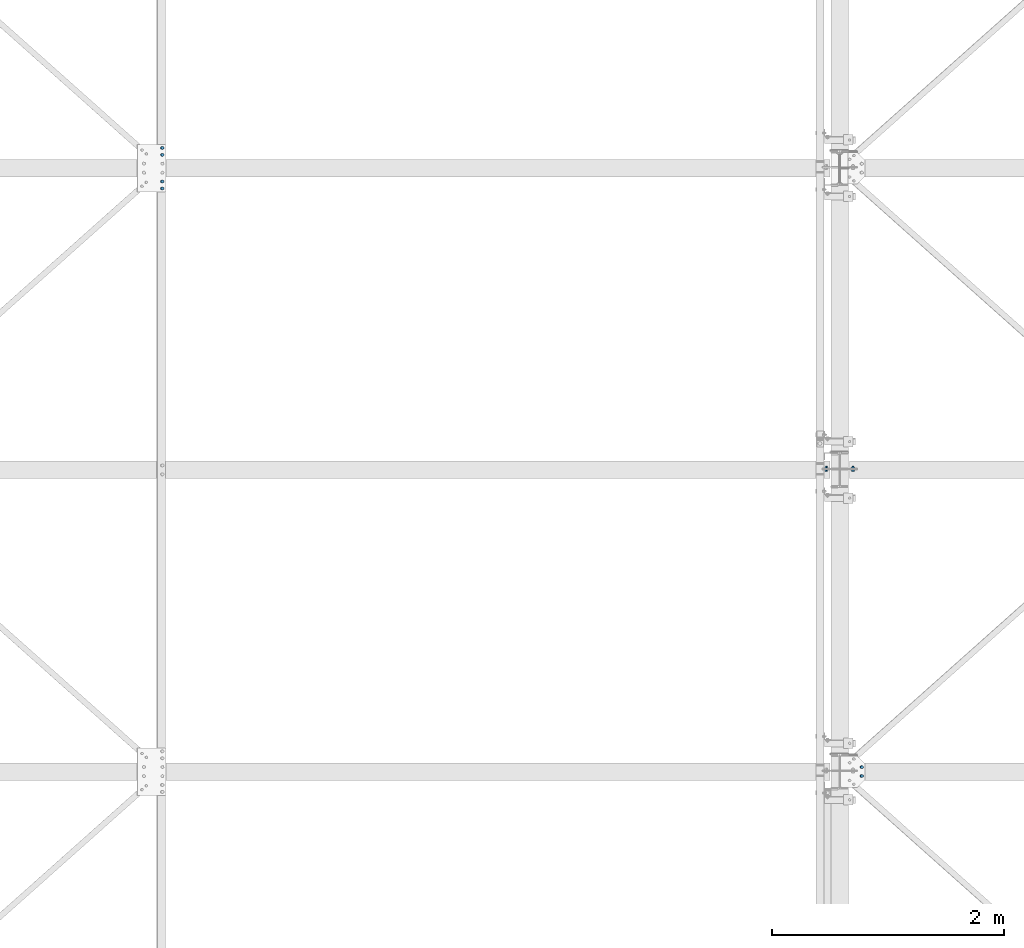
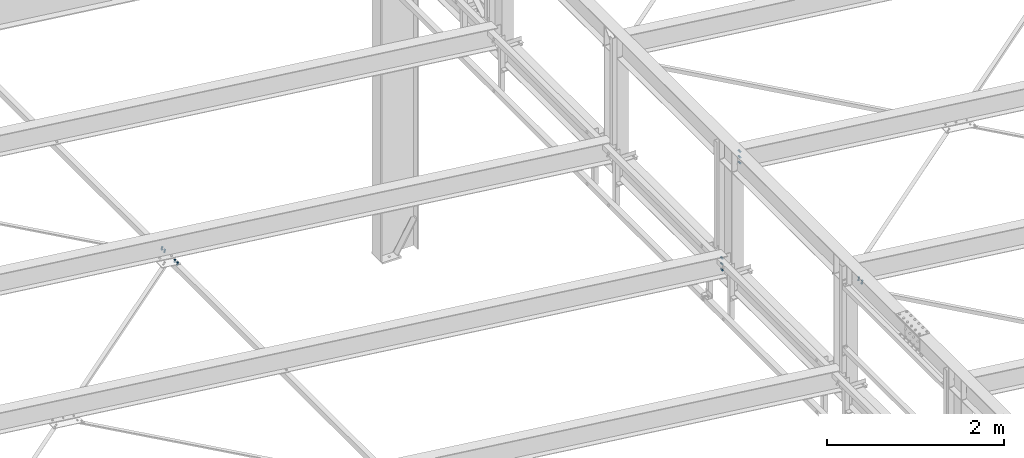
# One storey, part 247 of 3134: 5 mechanical fasteners, 4 elements without a shape of their own.
"""IFC2X3 building model written with IfcOpenShell, lengths in millimetres."""

import ifcopenshell
import ifcopenshell.guid

model = None  # the IFC model being written
_history = None  # IfcOwnerHistory: only IFC2X3 demands one
_inside = {}  # id of a spatial element -> (the spatial element, [elements in it])
_under = {}  # id of a project, library or spatial element -> (it, [spatial elements below it])
_declared = {}  # id of a project -> (the project, [libraries it declares])
_typed = {}  # id of a type object -> (the type object, [elements of that type])
_made_of = {}  # id of a material, layer set ... -> (it, [elements and type objects made of it])


def new_model(schema):
    """Start an empty IFC model of exactly this schema.

    Asked for "IFC4X3", IfcOpenShell would pick the latest addendum, in which some entities
    have other attributes; the version numbers below select the first issue.
    IFC2X3 requires an IfcOwnerHistory on every rooted entity: one is made here for all.
    """
    global model, _history
    if schema == "IFC4X3":
        model = ifcopenshell.file(schema_version=(4, 3, 0, 0))
    else:
        model = ifcopenshell.file(schema=schema)
    _inside.clear()
    _under.clear()
    _declared.clear()
    _typed.clear()
    _made_of.clear()
    _history = None
    if model.schema == "IFC2X3":
        org = make("IfcOrganization", Name="unknown")
        user = make(
            "IfcPersonAndOrganization",
            ThePerson=make("IfcPerson", FamilyName="unknown"),
            TheOrganization=org,
        )
        app = make(
            "IfcApplication",
            ApplicationDeveloper=org,
            Version="unknown",
            ApplicationFullName="unknown",
            ApplicationIdentifier="unknown",
        )
        _history = make(
            "IfcOwnerHistory",
            OwningUser=user,
            OwningApplication=app,
            ChangeAction="ADDED",
            CreationDate=0,
        )
    return model


def make(cls, **values):
    """One entity of the class cls with the attributes given. An attribute that is None is left unset."""
    return model.create_entity(
        cls, **{name: value for name, value in values.items() if value is not None}
    )


def rooted(cls, **values):
    """An entity with a GlobalId (a new one), such as an element, a storey or a relation."""
    return make(cls, GlobalId=ifcopenshell.guid.new(), OwnerHistory=_history, **values)


def si_unit(unit_type, name, prefix=None):
    """IfcSIUnit, for example si_unit("LENGTHUNIT", "METRE", prefix="MILLI")."""
    return make("IfcSIUnit", UnitType=unit_type, Prefix=prefix, Name=name)


def assignment(units):
    """IfcUnitAssignment: the units of a project."""
    return None if units is None else make("IfcUnitAssignment", Units=units)


def point(xyz):
    """IfcCartesianPoint."""
    return None if xyz is None else make("IfcCartesianPoint", Coordinates=xyz)


def direction(xyz):
    """IfcDirection."""
    return None if xyz is None else make("IfcDirection", DirectionRatios=xyz)


def frame(location, z_axis=None, x_axis=None):
    """IfcAxis2Placement3D, a coordinate frame: its origin and axes. An axis left out is left unset."""
    return make(
        "IfcAxis2Placement3D",
        Location=point(location),
        Axis=direction(z_axis),
        RefDirection=direction(x_axis),
    )


def origin_with_axes():
    """The frame at (0, 0, 0) with the z axis (0, 0, 1) and the x axis (1, 0, 0) written out."""
    return frame((0.0, 0.0, 0.0), z_axis=(0.0, 0.0, 1.0), x_axis=(1.0, 0.0, 0.0))


def place(relative_to, where):
    """IfcLocalPlacement: puts the frame where relative to a parent placement (None: the world)."""
    return make(
        "IfcLocalPlacement", PlacementRelTo=relative_to, RelativePlacement=where
    )


def context(
    kind, dimensions, precision=None, world=None, true_north=None, identifier=None
):
    """IfcGeometricRepresentationContext, for example the 3D "Model" context."""
    return make(
        "IfcGeometricRepresentationContext",
        ContextIdentifier=identifier,
        ContextType=kind,
        CoordinateSpaceDimension=dimensions,
        Precision=precision,
        WorldCoordinateSystem=world,
        TrueNorth=true_north,
    )


def subcontext(parent, identifier, kind, view, scale=None):
    """IfcGeometricRepresentationSubContext, for example "Body" below "Model"."""
    return make(
        "IfcGeometricRepresentationSubContext",
        ContextIdentifier=identifier,
        ContextType=kind,
        ParentContext=parent,
        TargetScale=scale,
        TargetView=view,
    )


def project(units=None, contexts=None):
    """IfcProject with its units and contexts."""
    return rooted(
        "IfcProject",
        Name="project",
        RepresentationContexts=contexts,
        UnitsInContext=assignment(units),
    )


def spatial(cls, under=None, at=None, **own):
    """A site, building, storey or space (cls), placed at a placement, below another one or the project."""
    s = rooted(cls, ObjectPlacement=at, **own)
    if under is not None:
        _under.setdefault(under.id(), (under, []))[1].append(s)
    return s


def faces_of(points, faces, orient=None, outer=None):
    """IfcFace entities. A face is a list of loops; a loop is a list of indices into points, from 0.

    orient and outer hold one flag for each loop. By default every Orientation is true, the
    first loop of a face is its IfcFaceOuterBound and the others are IfcFaceBound.
    """
    made = []
    for i, loops in enumerate(faces):
        bounds = []
        for j, loop in enumerate(loops):
            is_outer = j == 0 if outer is None else outer[i][j]
            bounds.append(
                make(
                    "IfcFaceOuterBound" if is_outer else "IfcFaceBound",
                    Bound=make("IfcPolyLoop", Polygon=[points[k] for k in loop]),
                    Orientation=True if orient is None else orient[i][j],
                )
            )
        made.append(make("IfcFace", Bounds=bounds))
    return made


def faceted_brep(points, faces, orient=None, outer=None, voids=None):
    """IfcFacetedBrep: a solid bounded by flat faces; with voids (closed shells), ...WithVoids."""
    shared = [point(p) for p in points]
    hull = make("IfcClosedShell", CfsFaces=faces_of(shared, faces, orient, outer))
    if voids is None:
        return make("IfcFacetedBrep", Outer=hull)
    return make(
        "IfcFacetedBrepWithVoids",
        Outer=hull,
        Voids=[
            make(cls, CfsFaces=faces_of(shared, fs, o, b)) for cls, fs, o, b in voids
        ],
    )


def shape(context_of_items, identifier, shape_type, items):
    """IfcShapeRepresentation: the items that make up one representation, for example the "Body"."""
    return make(
        "IfcShapeRepresentation",
        ContextOfItems=context_of_items,
        RepresentationIdentifier=identifier,
        RepresentationType=shape_type,
        Items=items,
    )


def source(mapping_origin, context_of_items, identifier, shape_type, items):
    """IfcRepresentationMap: a shape defined once, which mapped items show again and again."""
    return make(
        "IfcRepresentationMap",
        MappingOrigin=mapping_origin,
        MappedRepresentation=shape(context_of_items, identifier, shape_type, items),
    )


def transform(
    local_origin,
    x_axis=None,
    y_axis=None,
    z_axis=None,
    scale=None,
    scale2=None,
    scale3=None,
    uniform=True,
):
    """IfcCartesianTransformationOperator3D, or its non-uniform kind. x_axis, y_axis, z_axis: its Axis1, 2, 3."""
    if uniform:
        return make(
            "IfcCartesianTransformationOperator3D",
            Axis1=direction(x_axis),
            Axis2=direction(y_axis),
            LocalOrigin=point(local_origin),
            Scale=scale,
            Axis3=direction(z_axis),
        )
    return make(
        "IfcCartesianTransformationOperator3DnonUniform",
        Axis1=direction(x_axis),
        Axis2=direction(y_axis),
        LocalOrigin=point(local_origin),
        Scale=scale,
        Axis3=direction(z_axis),
        Scale2=scale2,
        Scale3=scale3,
    )


def mapped(mapping_source, mapping_target):
    """IfcMappedItem: shows the shape of a source again, moved by a transform."""
    return make(
        "IfcMappedItem", MappingSource=mapping_source, MappingTarget=mapping_target
    )


def material(Name=None, Category=None):
    """IfcMaterial."""
    return make("IfcMaterial", Name=Name, Category=Category)


def made_of(thing, what):
    """Note that an element or type object is made of a material, layer set ...; save() writes the relation."""
    if what is not None:
        _made_of.setdefault(what.id(), (what, []))[1].append(thing)
    return thing


def type_object(cls, material=None, **own):
    """A type object (cls), such as IfcWallType, which elements share."""
    return made_of(rooted(cls, **own), material)


def element(
    cls,
    number,
    at=None,
    inside=None,
    cuts=None,
    type_object=None,
    material=None,
    context=None,
    identifier="Body",
    shape_type=None,
    held_by="IfcProductDefinitionShape",
    body=None,
    shapes=None,
    **own,
):
    """One element of the class cls, such as IfcWall. Its Tag is "e" and its number.

    at: its placement. inside: the storey or other place that contains it. cuts: it is an
    opening in that element (IfcRelVoidsElement). A single representation is given by context,
    identifier, shape_type and body (its items); several are given by shapes. held_by: the class
    of the entity that holds the representations. save() writes the other relations.
    """
    e = rooted(cls, Tag="e%d" % number, ObjectPlacement=at, **own)
    if body is not None:
        shapes = [shape(context, identifier, shape_type, body)]
    if shapes is not None:
        e.Representation = make(held_by, Representations=shapes)
    if inside is not None:
        _inside.setdefault(inside.id(), (inside, []))[1].append(e)
    if cuts is not None:
        rooted(
            "IfcRelVoidsElement", RelatingBuildingElement=cuts, RelatedOpeningElement=e
        )
    if type_object is not None:
        _typed.setdefault(type_object.id(), (type_object, []))[1].append(e)
    return made_of(e, material)


def aggregate(whole, parts):
    """IfcRelAggregates: a whole, such as a stair, and the parts it consists of."""
    return rooted("IfcRelAggregates", RelatingObject=whole, RelatedObjects=parts)


def save(model, path):
    """Write the relations noted so far, then the file.

    IfcRelAggregates (storeys below a building ...), IfcRelContainedInSpatialStructure (elements
    in a storey), IfcRelDefinesByType, IfcRelAssociatesMaterial and IfcRelDeclares: one each for
    every whole, place, type object, material and project.
    """
    for whole, parts in _under.values():
        aggregate(whole, parts)
    for where, things in _inside.values():
        rooted(
            "IfcRelContainedInSpatialStructure",
            RelatedElements=things,
            RelatingStructure=where,
        )
    for kind, things in _typed.values():
        rooted("IfcRelDefinesByType", RelatedObjects=things, RelatingType=kind)
    for what, things in _made_of.values():
        rooted("IfcRelAssociatesMaterial", RelatedObjects=things, RelatingMaterial=what)
    for by, libraries in _declared.values():
        rooted("IfcRelDeclares", RelatingContext=by, RelatedDefinitions=libraries)
    model.write(path)


model = new_model("IFC2X3")

# Units and contexts
model_context = context("Model", 3, precision=1e-05, world=origin_with_axes())
body_context = subcontext(model_context, "Body", "Model", "MODEL_VIEW")
ifc_project = project(units=[si_unit("LENGTHUNIT", "METRE", prefix="MILLI"), si_unit("AREAUNIT", "SQUARE_METRE"), si_unit("VOLUMEUNIT", "CUBIC_METRE"), si_unit("MASSUNIT", "GRAM", prefix="KILO"), si_unit("TIMEUNIT", "SECOND"), si_unit("PLANEANGLEUNIT", "RADIAN"), si_unit("SOLIDANGLEUNIT", "STERADIAN"), si_unit("THERMODYNAMICTEMPERATUREUNIT", "DEGREE_CELSIUS"), si_unit("LUMINOUSINTENSITYUNIT", "LUMEN")], contexts=[model_context])

# Site, building, storey
site_placement = place(None, origin_with_axes())
site = spatial("IfcSite", under=ifc_project, at=site_placement, CompositionType="ELEMENT")
building_placement = place(site_placement, origin_with_axes())
building = spatial("IfcBuilding", under=site, at=building_placement, Name="Undefined", CompositionType="ELEMENT")
storey_placement = place(building_placement, origin_with_axes())
storey = spatial("IfcBuildingStorey", under=building, at=storey_placement, Name="Undefined", CompositionType="ELEMENT", Elevation=0.0)

# Assembly, mechanical fastener
assembly_1_placement = place(storey_placement, origin_with_axes())
assembly_1 = element("IfcElementAssembly", 1, at=assembly_1_placement, inside=storey, Name="300", AssemblyPlace="NOTDEFINED", PredefinedType="RIGID_FRAME")
ifc_material = material(Name="8.8")
mechanical_fastener_type = type_object("IfcMechanicalFastenerType", Name="Bolt assembly")
shared_shape_1 = source(origin_with_axes(), body_context, "Body", "Brep", [
    faceted_brep([(13.856406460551, -13.0499999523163, 0.0), (6.92820323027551, -13.0499999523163, 12.0), (-6.92820323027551, -13.0499999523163, 12.0), (-13.856406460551, -13.0499999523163, 1.69692038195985e-15), (-6.92820323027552, -13.0499999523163, -12.0), (6.9282032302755, -13.0499999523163, -12.0), (6.9282032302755, -3.04999995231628, -12.0), (-6.92820323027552, -3.04999995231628, -12.0), (-13.856406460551, -3.04999995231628, 1.69692038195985e-15), (-6.92820323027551, -3.04999995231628, 12.0), (6.92820323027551, -3.04999995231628, 12.0), (13.856406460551, -3.04999995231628, 0.0), (8.0, -3.04999995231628, 0.0), (6.92820323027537, -3.04999995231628, 4.00000000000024), (3.99999999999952, -3.04999995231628, 6.92820323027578), (-8.29068785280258e-13, -3.04999995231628, 8.0), (-4.00000000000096, -3.04999995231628, 6.92820323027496), (-6.9282032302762, -3.04999995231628, 3.99999999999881), (-8.0, -3.04999995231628, -1.65813757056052e-12), (-6.92820323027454, -3.04999995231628, -4.00000000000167), (-3.99999999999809, -3.04999995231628, -6.92820323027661), (2.47832457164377e-12, -3.04999995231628, -8.0), (4.00000000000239, -3.04999995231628, -6.92820323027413), (6.92820323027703, -3.04999995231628, -3.99999999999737), (6.92820323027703, 31.9500000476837, -3.99999999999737), (4.00000000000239, 31.9500000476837, -6.92820323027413), (2.47832457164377e-12, 31.9500000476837, -8.0), (-3.99999999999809, 31.9500000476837, -6.92820323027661), (-6.92820323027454, 31.9500000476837, -4.00000000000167), (-8.0, 31.9500000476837, -1.65813757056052e-12), (-6.9282032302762, 31.9500000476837, 3.99999999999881), (-4.00000000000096, 31.9500000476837, 6.92820323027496), (-8.29068785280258e-13, 31.9500000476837, 8.0), (3.99999999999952, 31.9500000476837, 6.92820323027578), (6.92820323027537, 31.9500000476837, 4.00000000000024), (8.0, 31.9500000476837, 0.0), (13.856406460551, 13.0500000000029, 0.0), (6.92820323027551, 13.0500000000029, 12.0), (-6.92820323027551, 13.0500000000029, 12.0), (-13.856406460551, 13.0500000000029, 1.69692038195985e-15), (-6.92820323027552, 13.0500000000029, -12.0), (6.9282032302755, 13.0500000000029, -12.0), (6.9282032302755, 26.0500000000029, -12.0), (-6.92820323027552, 26.0500000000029, -12.0), (-13.856406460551, 26.0500000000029, 1.69692038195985e-15), (-6.92820323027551, 26.0500000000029, 12.0), (6.92820323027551, 26.0500000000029, 12.0), (13.856406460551, 26.0500000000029, 0.0)], [[[0, 1, 2, 3, 4, 5]], [[6, 7, 8, 9, 10, 11]], [[0, 11, 10, 1]], [[1, 10, 9, 2]], [[2, 9, 8, 3]], [[3, 8, 7, 4]], [[4, 7, 6, 5]], [[5, 6, 11, 0]], [[12, 13, 14, 15, 16, 17, 18, 19, 20, 21, 22, 23]], [[24, 25, 26, 27, 28, 29, 30, 31, 32, 33, 34, 35]], [[12, 35, 34, 13]], [[13, 34, 33, 14]], [[14, 33, 32, 15]], [[15, 32, 31, 16]], [[16, 31, 30, 17]], [[17, 30, 29, 18]], [[18, 29, 28, 19]], [[19, 28, 27, 20]], [[20, 27, 26, 21]], [[21, 26, 25, 22]], [[22, 25, 24, 23]], [[23, 24, 35, 12]], [[36, 37, 38, 39, 40, 41]], [[42, 43, 44, 45, 46, 47]], [[36, 47, 46, 37]], [[37, 46, 45, 38]], [[38, 45, 44, 39]], [[39, 44, 43, 40]], [[40, 43, 42, 41]], [[41, 42, 47, 36]]]),
    faceted_brep([(9.0, 2.95000000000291, 0.0), (7.79422863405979, 2.95000000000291, 4.50000000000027), (4.49999999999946, 2.95000000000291, 7.79422863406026), (-9.3270238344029e-13, 2.95000000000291, 9.0), (-4.50000000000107, 2.95000000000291, 7.79422863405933), (-7.79422863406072, 2.95000000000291, 4.49999999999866), (-9.0, 2.95000000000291, -1.86540476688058e-12), (-7.79422863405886, 2.95000000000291, -4.50000000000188), (-4.49999999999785, 2.95000000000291, -7.79422863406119), (2.78811514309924e-12, 2.95000000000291, -9.0), (4.50000000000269, 2.95000000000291, -7.7942286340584), (7.79422863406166, 2.95000000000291, -4.49999999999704), (7.79422863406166, 13.0500000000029, -4.49999999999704), (4.50000000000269, 13.0500000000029, -7.7942286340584), (2.78811514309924e-12, 13.0500000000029, -9.0), (-4.49999999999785, 13.0500000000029, -7.79422863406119), (-7.79422863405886, 13.0500000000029, -4.50000000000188), (-9.0, 13.0500000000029, -1.86540476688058e-12), (-7.79422863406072, 13.0500000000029, 4.49999999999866), (-4.50000000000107, 13.0500000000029, 7.79422863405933), (-9.3270238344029e-13, 13.0500000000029, 9.0), (4.49999999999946, 13.0500000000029, 7.79422863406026), (7.79422863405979, 13.0500000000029, 4.50000000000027), (9.0, 13.0500000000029, 0.0), (9.0, -2.94999995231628, 0.0), (7.79422863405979, -2.94999995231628, 4.50000000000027), (4.49999999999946, -2.94999995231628, 7.79422863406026), (-9.3270238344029e-13, -2.94999995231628, 9.0), (-4.50000000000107, -2.94999995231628, 7.79422863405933), (-7.79422863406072, -2.94999995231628, 4.49999999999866), (-9.0, -2.94999995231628, -1.86540476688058e-12), (-7.79422863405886, -2.94999995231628, -4.50000000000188), (-4.49999999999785, -2.94999995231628, -7.79422863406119), (2.78811514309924e-12, -2.94999995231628, -9.0), (4.50000000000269, -2.94999995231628, -7.7942286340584), (7.79422863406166, -2.94999995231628, -4.49999999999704), (7.79422863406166, 3.14999995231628, -4.49999999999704), (4.50000000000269, 3.14999995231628, -7.7942286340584), (2.78811514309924e-12, 3.14999995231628, -9.0), (-4.49999999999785, 3.14999995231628, -7.79422863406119), (-7.79422863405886, 3.14999995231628, -4.50000000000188), (-9.0, 3.14999995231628, -1.86540476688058e-12), (-7.79422863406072, 3.14999995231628, 4.49999999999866), (-4.50000000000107, 3.14999995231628, 7.79422863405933), (-9.3270238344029e-13, 3.14999995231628, 9.0), (4.49999999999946, 3.14999995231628, 7.79422863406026), (7.79422863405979, 3.14999995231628, 4.50000000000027), (9.0, 3.14999995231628, 0.0)], [[[0, 1, 2, 3, 4, 5, 6, 7, 8, 9, 10, 11]], [[12, 13, 14, 15, 16, 17, 18, 19, 20, 21, 22, 23]], [[0, 23, 22, 1]], [[1, 22, 21, 2]], [[2, 21, 20, 3]], [[3, 20, 19, 4]], [[4, 19, 18, 5]], [[5, 18, 17, 6]], [[6, 17, 16, 7]], [[7, 16, 15, 8]], [[8, 15, 14, 9]], [[9, 14, 13, 10]], [[10, 13, 12, 11]], [[11, 12, 23, 0]], [[24, 25, 26, 27, 28, 29, 30, 31, 32, 33, 34, 35]], [[36, 37, 38, 39, 40, 41, 42, 43, 44, 45, 46, 47]], [[24, 47, 46, 25]], [[25, 46, 45, 26]], [[26, 45, 44, 27]], [[27, 44, 43, 28]], [[28, 43, 42, 29]], [[29, 42, 41, 30]], [[30, 41, 40, 31]], [[31, 40, 39, 32]], [[32, 39, 38, 33]], [[33, 38, 37, 34]], [[34, 37, 36, 35]], [[35, 36, 47, 24]]]),
])
mechanical_fastener_1_placement = place(assembly_1_placement, frame((44085.0, 32450.0, 4337.44269270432), z_axis=(1.0, 0.0, 0.0), x_axis=(0.0, 0.0, -1.0)))
mechanical_fastener_1 = element("IfcMechanicalFastener", 2, at=mechanical_fastener_1_placement, type_object=mechanical_fastener_type, material=ifc_material, Name="Bolt assembly", NominalDiameter=16.0, NominalLength=35.0, context=body_context, shape_type="MappedRepresentation", body=[
    mapped(shared_shape_1, transform((0.0, 0.0, 0.0))),
    mapped(shared_shape_1, transform((80.0, 0.0, 0.0))),
    mapped(shared_shape_1, transform((160.0, 0.0, 0.0))),
])
aggregate(assembly_1, [mechanical_fastener_1])

assembly_2_placement = place(storey_placement, origin_with_axes())
assembly_2 = element("IfcElementAssembly", 3, at=assembly_2_placement, inside=storey, Name="300", AssemblyPlace="NOTDEFINED", PredefinedType="RIGID_FRAME")
mechanical_fastener_2_placement = place(assembly_2_placement, frame((44315.0, 32450.0, 5735.35014950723), z_axis=(1.0, 0.0, 0.0), x_axis=(0.0, 0.0, -1.0)))
mechanical_fastener_2 = element("IfcMechanicalFastener", 4, at=mechanical_fastener_2_placement, type_object=mechanical_fastener_type, material=ifc_material, Name="Bolt assembly", NominalDiameter=16.0, NominalLength=35.0, context=body_context, shape_type="MappedRepresentation", body=[
    mapped(shared_shape_1, transform((0.0, 0.0, 0.0))),
    mapped(shared_shape_1, transform((80.0, 0.0, 0.0))),
    mapped(shared_shape_1, transform((160.0, 0.0, 0.0))),
])
aggregate(assembly_2, [mechanical_fastener_2])

# Assembly, mechanical fasteners
assembly_3_placement = place(storey_placement, origin_with_axes())
assembly_3 = element("IfcElementAssembly", 5, at=assembly_3_placement, inside=storey, Name="PL8", AssemblyPlace="NOTDEFINED", PredefinedType="RIGID_FRAME")
shared_shape_2 = source(origin_with_axes(), body_context, "Body", "Brep", [
    faceted_brep([(13.856406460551, -10.0, 0.0), (6.92820323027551, -10.0, 12.0), (-6.92820323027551, -10.0, 12.0), (-13.856406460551, -10.0, 1.69692038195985e-15), (-6.92820323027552, -10.0, -12.0), (6.9282032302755, -10.0, -12.0), (6.9282032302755, 0.0, -12.0), (-6.92820323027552, 0.0, -12.0), (-13.856406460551, 0.0, 1.69692038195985e-15), (-6.92820323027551, 0.0, 12.0), (6.92820323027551, 0.0, 12.0), (13.856406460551, 0.0, 0.0), (8.0, 0.0, 0.0), (6.92820323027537, 0.0, 4.00000000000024), (3.99999999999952, 0.0, 6.92820323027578), (-8.29068785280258e-13, 0.0, 8.0), (-4.00000000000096, 0.0, 6.92820323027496), (-6.9282032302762, 0.0, 3.99999999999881), (-8.0, 0.0, -1.65813757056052e-12), (-6.92820323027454, 0.0, -4.00000000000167), (-3.99999999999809, 0.0, -6.92820323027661), (2.47832457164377e-12, 0.0, -8.0), (4.00000000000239, 0.0, -6.92820323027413), (6.92820323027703, 0.0, -3.99999999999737), (6.92820323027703, 35.0000000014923, -3.99999999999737), (4.00000000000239, 35.0000000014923, -6.92820323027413), (2.47832457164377e-12, 35.0000000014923, -8.0), (-3.99999999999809, 35.0000000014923, -6.92820323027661), (-6.92820323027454, 35.0000000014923, -4.00000000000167), (-8.0, 35.0000000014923, -1.65813757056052e-12), (-6.9282032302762, 35.0000000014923, 3.99999999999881), (-4.00000000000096, 35.0000000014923, 6.92820323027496), (-8.29068785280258e-13, 35.0000000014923, 8.0), (3.99999999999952, 35.0000000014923, 6.92820323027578), (6.92820323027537, 35.0000000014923, 4.00000000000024), (8.0, 35.0000000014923, 0.0), (13.856406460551, 14.9990000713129, 0.0), (6.92820323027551, 14.9990000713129, 12.0), (-6.92820323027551, 14.9990000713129, 12.0), (-13.856406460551, 14.9990000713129, 1.69692038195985e-15), (-6.92820323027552, 14.9990000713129, -12.0), (6.9282032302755, 14.9990000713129, -12.0), (6.9282032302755, 27.9990000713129, -12.0), (-6.92820323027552, 27.9990000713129, -12.0), (-13.856406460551, 27.9990000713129, 1.69692038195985e-15), (-6.92820323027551, 27.9990000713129, 12.0), (6.92820323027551, 27.9990000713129, 12.0), (13.856406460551, 27.9990000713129, 0.0)], [[[0, 1, 2, 3, 4, 5]], [[6, 7, 8, 9, 10, 11]], [[0, 11, 10, 1]], [[1, 10, 9, 2]], [[2, 9, 8, 3]], [[3, 8, 7, 4]], [[4, 7, 6, 5]], [[5, 6, 11, 0]], [[12, 13, 14, 15, 16, 17, 18, 19, 20, 21, 22, 23]], [[24, 25, 26, 27, 28, 29, 30, 31, 32, 33, 34, 35]], [[12, 35, 34, 13]], [[13, 34, 33, 14]], [[14, 33, 32, 15]], [[15, 32, 31, 16]], [[16, 31, 30, 17]], [[17, 30, 29, 18]], [[18, 29, 28, 19]], [[19, 28, 27, 20]], [[20, 27, 26, 21]], [[21, 26, 25, 22]], [[22, 25, 24, 23]], [[23, 24, 35, 12]], [[36, 37, 38, 39, 40, 41]], [[42, 43, 44, 45, 46, 47]], [[36, 47, 46, 37]], [[37, 46, 45, 38]], [[38, 45, 44, 39]], [[39, 44, 43, 40]], [[40, 43, 42, 41]], [[41, 42, 47, 36]]]),
    faceted_brep([(9.0, 7.89900007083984, 0.0), (7.79422863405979, 7.89900007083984, 4.50000000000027), (4.49999999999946, 7.89900007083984, 7.79422863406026), (-9.3270238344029e-13, 7.89900007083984, 9.0), (-4.50000000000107, 7.89900007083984, 7.79422863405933), (-7.79422863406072, 7.89900007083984, 4.49999999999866), (-9.0, 7.89900007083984, -1.86540476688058e-12), (-7.79422863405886, 7.89900007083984, -4.50000000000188), (-4.49999999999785, 7.89900007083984, -7.79422863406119), (2.78811514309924e-12, 7.89900007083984, -9.0), (4.50000000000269, 7.89900007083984, -7.7942286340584), (7.79422863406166, 7.89900007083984, -4.49999999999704), (7.79422863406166, 14.9990000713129, -4.49999999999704), (4.50000000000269, 14.9990000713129, -7.7942286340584), (2.78811514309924e-12, 14.9990000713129, -9.0), (-4.49999999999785, 14.9990000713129, -7.79422863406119), (-7.79422863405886, 14.9990000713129, -4.50000000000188), (-9.0, 14.9990000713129, -1.86540476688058e-12), (-7.79422863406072, 14.9990000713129, 4.49999999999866), (-4.50000000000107, 14.9990000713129, 7.79422863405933), (-9.3270238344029e-13, 14.9990000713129, 9.0), (4.49999999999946, 14.9990000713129, 7.79422863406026), (7.79422863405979, 14.9990000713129, 4.50000000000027), (9.0, 14.9990000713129, 0.0), (9.0, 0.100000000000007, 0.0), (7.79422863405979, 0.100000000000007, 4.50000000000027), (4.49999999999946, 0.100000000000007, 7.79422863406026), (-9.3270238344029e-13, 0.100000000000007, 9.0), (-4.50000000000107, 0.100000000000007, 7.79422863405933), (-7.79422863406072, 0.100000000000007, 4.49999999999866), (-9.0, 0.100000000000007, -1.86540476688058e-12), (-7.79422863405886, 0.100000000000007, -4.50000000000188), (-4.49999999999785, 0.100000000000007, -7.79422863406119), (2.78811514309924e-12, 0.100000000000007, -9.0), (4.50000000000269, 0.100000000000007, -7.7942286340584), (7.79422863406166, 0.100000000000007, -4.49999999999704), (7.79422863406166, 8.1, -4.49999999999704), (4.50000000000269, 8.1, -7.7942286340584), (2.78811514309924e-12, 8.1, -9.0), (-4.49999999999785, 8.1, -7.79422863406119), (-7.79422863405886, 8.1, -4.50000000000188), (-9.0, 8.1, -1.86540476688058e-12), (-7.79422863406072, 8.1, 4.49999999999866), (-4.50000000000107, 8.1, 7.79422863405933), (-9.3270238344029e-13, 8.1, 9.0), (4.49999999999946, 8.1, 7.79422863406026), (7.79422863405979, 8.1, 4.50000000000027), (9.0, 8.1, 0.0)], [[[0, 1, 2, 3, 4, 5, 6, 7, 8, 9, 10, 11]], [[12, 13, 14, 15, 16, 17, 18, 19, 20, 21, 22, 23]], [[0, 23, 22, 1]], [[1, 22, 21, 2]], [[2, 21, 20, 3]], [[3, 20, 19, 4]], [[4, 19, 18, 5]], [[5, 18, 17, 6]], [[6, 17, 16, 7]], [[7, 16, 15, 8]], [[8, 15, 14, 9]], [[9, 14, 13, 10]], [[10, 13, 12, 11]], [[11, 12, 23, 0]], [[24, 25, 26, 27, 28, 29, 30, 31, 32, 33, 34, 35]], [[36, 37, 38, 39, 40, 41, 42, 43, 44, 45, 46, 47]], [[24, 47, 46, 25]], [[25, 46, 45, 26]], [[26, 45, 44, 27]], [[27, 44, 43, 28]], [[28, 43, 42, 29]], [[29, 42, 41, 30]], [[30, 41, 40, 31]], [[31, 40, 39, 32]], [[32, 39, 38, 33]], [[33, 38, 37, 34]], [[34, 37, 36, 35]], [[35, 36, 47, 24]]]),
])
mechanical_fastener_3_placement = place(assembly_3_placement, frame((38362.9849612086, 35225.0, 4806.73358922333), z_axis=(0.992623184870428, 0.0, -0.121240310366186), x_axis=(0.0, -1.0, 0.0)))
mechanical_fastener_3 = element("IfcMechanicalFastener", 6, at=mechanical_fastener_3_placement, type_object=mechanical_fastener_type, material=ifc_material, Name="Bolt assembly", NominalDiameter=16.0, NominalLength=35.0, context=body_context, shape_type="MappedRepresentation", body=[
    mapped(shared_shape_2, transform((0.0, 0.0, 0.0))),
    mapped(shared_shape_2, transform((59.9999999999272, 0.0, 5.40239852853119e-10))),
])
shared_shape_3 = source(origin_with_axes(), body_context, "Body", "Brep", [
    faceted_brep([(13.856406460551, -10.0, 0.0), (6.92820323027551, -10.0, 12.0), (-6.92820323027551, -10.0, 12.0), (-13.856406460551, -10.0, 1.69692038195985e-15), (-6.92820323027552, -10.0, -12.0), (6.9282032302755, -10.0, -12.0), (6.9282032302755, 0.0, -12.0), (-6.92820323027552, 0.0, -12.0), (-13.856406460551, 0.0, 1.69692038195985e-15), (-6.92820323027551, 0.0, 12.0), (6.92820323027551, 0.0, 12.0), (13.856406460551, 0.0, 0.0), (8.0, 0.0, 0.0), (6.92820323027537, 0.0, 4.00000000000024), (3.99999999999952, 0.0, 6.92820323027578), (-8.29068785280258e-13, 0.0, 8.0), (-4.00000000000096, 0.0, 6.92820323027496), (-6.9282032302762, 0.0, 3.99999999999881), (-8.0, 0.0, -1.65813757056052e-12), (-6.92820323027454, 0.0, -4.00000000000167), (-3.99999999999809, 0.0, -6.92820323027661), (2.47832457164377e-12, 0.0, -8.0), (4.00000000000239, 0.0, -6.92820323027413), (6.92820323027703, 0.0, -3.99999999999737), (6.92820323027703, 35.0000000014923, -3.99999999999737), (4.00000000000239, 35.0000000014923, -6.92820323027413), (2.47832457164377e-12, 35.0000000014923, -8.0), (-3.99999999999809, 35.0000000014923, -6.92820323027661), (-6.92820323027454, 35.0000000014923, -4.00000000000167), (-8.0, 35.0000000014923, -1.65813757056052e-12), (-6.9282032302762, 35.0000000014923, 3.99999999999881), (-4.00000000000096, 35.0000000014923, 6.92820323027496), (-8.29068785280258e-13, 35.0000000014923, 8.0), (3.99999999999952, 35.0000000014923, 6.92820323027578), (6.92820323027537, 35.0000000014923, 4.00000000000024), (8.0, 35.0000000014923, 0.0), (13.856406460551, 14.9999995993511, 0.0), (6.92820323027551, 14.9999995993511, 12.0), (-6.92820323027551, 14.9999995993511, 12.0), (-13.856406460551, 14.9999995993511, 1.69692038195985e-15), (-6.92820323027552, 14.9999995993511, -12.0), (6.9282032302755, 14.9999995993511, -12.0), (6.9282032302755, 27.9999995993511, -12.0), (-6.92820323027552, 27.9999995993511, -12.0), (-13.856406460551, 27.9999995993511, 1.69692038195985e-15), (-6.92820323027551, 27.9999995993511, 12.0), (6.92820323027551, 27.9999995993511, 12.0), (13.856406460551, 27.9999995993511, 0.0)], [[[0, 1, 2, 3, 4, 5]], [[6, 7, 8, 9, 10, 11]], [[0, 11, 10, 1]], [[1, 10, 9, 2]], [[2, 9, 8, 3]], [[3, 8, 7, 4]], [[4, 7, 6, 5]], [[5, 6, 11, 0]], [[12, 13, 14, 15, 16, 17, 18, 19, 20, 21, 22, 23]], [[24, 25, 26, 27, 28, 29, 30, 31, 32, 33, 34, 35]], [[12, 35, 34, 13]], [[13, 34, 33, 14]], [[14, 33, 32, 15]], [[15, 32, 31, 16]], [[16, 31, 30, 17]], [[17, 30, 29, 18]], [[18, 29, 28, 19]], [[19, 28, 27, 20]], [[20, 27, 26, 21]], [[21, 26, 25, 22]], [[22, 25, 24, 23]], [[23, 24, 35, 12]], [[36, 37, 38, 39, 40, 41]], [[42, 43, 44, 45, 46, 47]], [[36, 47, 46, 37]], [[37, 46, 45, 38]], [[38, 45, 44, 39]], [[39, 44, 43, 40]], [[40, 43, 42, 41]], [[41, 42, 47, 36]]]),
    faceted_brep([(9.0, 7.9, 0.0), (7.79422863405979, 7.9, 4.50000000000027), (4.49999999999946, 7.9, 7.79422863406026), (-9.3270238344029e-13, 7.9, 9.0), (-4.50000000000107, 7.9, 7.79422863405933), (-7.79422863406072, 7.9, 4.49999999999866), (-9.0, 7.9, -1.86540476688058e-12), (-7.79422863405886, 7.9, -4.50000000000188), (-4.49999999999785, 7.9, -7.79422863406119), (2.78811514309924e-12, 7.9, -9.0), (4.50000000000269, 7.9, -7.7942286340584), (7.79422863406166, 7.9, -4.49999999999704), (7.79422863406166, 14.9999995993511, -4.49999999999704), (4.50000000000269, 14.9999995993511, -7.7942286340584), (2.78811514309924e-12, 14.9999995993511, -9.0), (-4.49999999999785, 14.9999995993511, -7.79422863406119), (-7.79422863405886, 14.9999995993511, -4.50000000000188), (-9.0, 14.9999995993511, -1.86540476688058e-12), (-7.79422863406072, 14.9999995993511, 4.49999999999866), (-4.50000000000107, 14.9999995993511, 7.79422863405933), (-9.3270238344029e-13, 14.9999995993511, 9.0), (4.49999999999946, 14.9999995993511, 7.79422863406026), (7.79422863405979, 14.9999995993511, 4.50000000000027), (9.0, 14.9999995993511, 0.0), (9.0, 0.100000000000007, 0.0), (7.79422863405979, 0.100000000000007, 4.50000000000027), (4.49999999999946, 0.100000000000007, 7.79422863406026), (-9.3270238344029e-13, 0.100000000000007, 9.0), (-4.50000000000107, 0.100000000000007, 7.79422863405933), (-7.79422863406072, 0.100000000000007, 4.49999999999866), (-9.0, 0.100000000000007, -1.86540476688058e-12), (-7.79422863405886, 0.100000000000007, -4.50000000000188), (-4.49999999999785, 0.100000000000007, -7.79422863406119), (2.78811514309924e-12, 0.100000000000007, -9.0), (4.50000000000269, 0.100000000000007, -7.7942286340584), (7.79422863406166, 0.100000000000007, -4.49999999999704), (7.79422863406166, 8.1, -4.49999999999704), (4.50000000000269, 8.1, -7.7942286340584), (2.78811514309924e-12, 8.1, -9.0), (-4.49999999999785, 8.1, -7.79422863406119), (-7.79422863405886, 8.1, -4.50000000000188), (-9.0, 8.1, -1.86540476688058e-12), (-7.79422863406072, 8.1, 4.49999999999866), (-4.50000000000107, 8.1, 7.79422863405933), (-9.3270238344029e-13, 8.1, 9.0), (4.49999999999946, 8.1, 7.79422863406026), (7.79422863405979, 8.1, 4.50000000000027), (9.0, 8.1, 0.0)], [[[0, 1, 2, 3, 4, 5, 6, 7, 8, 9, 10, 11]], [[12, 13, 14, 15, 16, 17, 18, 19, 20, 21, 22, 23]], [[0, 23, 22, 1]], [[1, 22, 21, 2]], [[2, 21, 20, 3]], [[3, 20, 19, 4]], [[4, 19, 18, 5]], [[5, 18, 17, 6]], [[6, 17, 16, 7]], [[7, 16, 15, 8]], [[8, 15, 14, 9]], [[9, 14, 13, 10]], [[10, 13, 12, 11]], [[11, 12, 23, 0]], [[24, 25, 26, 27, 28, 29, 30, 31, 32, 33, 34, 35]], [[36, 37, 38, 39, 40, 41, 42, 43, 44, 45, 46, 47]], [[24, 47, 46, 25]], [[25, 46, 45, 26]], [[26, 45, 44, 27]], [[27, 44, 43, 28]], [[28, 43, 42, 29]], [[29, 42, 41, 30]], [[30, 41, 40, 31]], [[31, 40, 39, 32]], [[32, 39, 38, 33]], [[33, 38, 37, 34]], [[34, 37, 36, 35]], [[35, 36, 47, 24]]]),
])
mechanical_fastener_4_placement = place(assembly_3_placement, frame((38362.9849612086, 34935.0, 4806.73358922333), z_axis=(0.992623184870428, 0.0, -0.121240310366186), x_axis=(0.0, -1.0, 0.0)))
mechanical_fastener_4 = element("IfcMechanicalFastener", 7, at=mechanical_fastener_4_placement, type_object=mechanical_fastener_type, material=ifc_material, Name="Bolt assembly", NominalDiameter=16.0, NominalLength=35.0, context=body_context, shape_type="MappedRepresentation", body=[
    mapped(shared_shape_3, transform((0.0, 0.0, 0.0))),
    mapped(shared_shape_3, transform((59.9999999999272, 0.0, 5.40239852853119e-10))),
])
aggregate(assembly_3, [mechanical_fastener_4, mechanical_fastener_3])

# Assembly, mechanical fastener
assembly_4_placement = place(storey_placement, origin_with_axes())
assembly_4 = element("IfcElementAssembly", 8, at=assembly_4_placement, inside=storey, Name="300", AssemblyPlace="NOTDEFINED", PredefinedType="RIGID_FRAME")
shared_shape_4 = source(origin_with_axes(), body_context, "Body", "Brep", [
    faceted_brep([(13.856406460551, -29.1262316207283, 0.0), (6.92820323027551, -29.1262316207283, 12.0), (-6.92820323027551, -29.1262316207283, 12.0), (-13.856406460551, -29.1262316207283, 1.69692038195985e-15), (-6.92820323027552, -29.1262316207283, -12.0), (6.9282032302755, -29.1262316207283, -12.0), (6.9282032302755, -19.1262316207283, -12.0), (-6.92820323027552, -19.1262316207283, -12.0), (-13.856406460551, -19.1262316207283, 1.69692038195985e-15), (-6.92820323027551, -19.1262316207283, 12.0), (6.92820323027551, -19.1262316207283, 12.0), (13.856406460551, -19.1262316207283, 0.0), (8.0, -19.1262316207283, 0.0), (6.92820323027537, -19.1262316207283, 4.00000000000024), (3.99999999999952, -19.1262316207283, 6.92820323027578), (-8.29068785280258e-13, -19.1262316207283, 8.0), (-4.00000000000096, -19.1262316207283, 6.92820323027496), (-6.9282032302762, -19.1262316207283, 3.99999999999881), (-8.0, -19.1262316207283, -1.65813757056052e-12), (-6.92820323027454, -19.1262316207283, -4.00000000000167), (-3.99999999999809, -19.1262316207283, -6.92820323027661), (2.47832457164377e-12, -19.1262316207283, -8.0), (4.00000000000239, -19.1262316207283, -6.92820323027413), (6.92820323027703, -19.1262316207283, -3.99999999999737), (6.92820323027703, 15.8737683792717, -3.99999999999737), (4.00000000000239, 15.8737683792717, -6.92820323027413), (2.47832457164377e-12, 15.8737683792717, -8.0), (-3.99999999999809, 15.8737683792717, -6.92820323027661), (-6.92820323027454, 15.8737683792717, -4.00000000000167), (-8.0, 15.8737683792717, -1.65813757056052e-12), (-6.9282032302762, 15.8737683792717, 3.99999999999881), (-4.00000000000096, 15.8737683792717, 6.92820323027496), (-8.29068785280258e-13, 15.8737683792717, 8.0), (3.99999999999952, 15.8737683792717, 6.92820323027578), (6.92820323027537, 15.8737683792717, 4.00000000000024), (8.0, 15.8737683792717, 0.0), (13.856406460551, 8.00000637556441, 0.0), (6.92820323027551, 8.00000637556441, 12.0), (-6.92820323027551, 8.00000637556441, 12.0), (-13.856406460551, 8.00000637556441, 1.69692038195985e-15), (-6.92820323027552, 8.00000637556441, -12.0), (6.9282032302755, 8.00000637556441, -12.0), (6.9282032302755, 21.0000063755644, -12.0), (-6.92820323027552, 21.0000063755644, -12.0), (-13.856406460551, 21.0000063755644, 1.69692038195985e-15), (-6.92820323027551, 21.0000063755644, 12.0), (6.92820323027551, 21.0000063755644, 12.0), (13.856406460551, 21.0000063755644, 0.0)], [[[0, 1, 2, 3, 4, 5]], [[6, 7, 8, 9, 10, 11]], [[0, 11, 10, 1]], [[1, 10, 9, 2]], [[2, 9, 8, 3]], [[3, 8, 7, 4]], [[4, 7, 6, 5]], [[5, 6, 11, 0]], [[12, 13, 14, 15, 16, 17, 18, 19, 20, 21, 22, 23]], [[24, 25, 26, 27, 28, 29, 30, 31, 32, 33, 34, 35]], [[12, 35, 34, 13]], [[13, 34, 33, 14]], [[14, 33, 32, 15]], [[15, 32, 31, 16]], [[16, 31, 30, 17]], [[17, 30, 29, 18]], [[18, 29, 28, 19]], [[19, 28, 27, 20]], [[20, 27, 26, 21]], [[21, 26, 25, 22]], [[22, 25, 24, 23]], [[23, 24, 35, 12]], [[36, 37, 38, 39, 40, 41]], [[42, 43, 44, 45, 46, 47]], [[36, 47, 46, 37]], [[37, 46, 45, 38]], [[38, 45, 44, 39]], [[39, 44, 43, 40]], [[40, 43, 42, 41]], [[41, 42, 47, 36]]]),
    faceted_brep([(9.0, -0.1, 0.0), (7.79422863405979, -0.1, 4.50000000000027), (4.49999999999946, -0.1, 7.79422863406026), (-9.3270238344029e-13, -0.1, 9.0), (-4.50000000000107, -0.1, 7.79422863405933), (-7.79422863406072, -0.1, 4.49999999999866), (-9.0, -0.1, -1.86540476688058e-12), (-7.79422863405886, -0.1, -4.50000000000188), (-4.49999999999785, -0.1, -7.79422863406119), (2.78811514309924e-12, -0.1, -9.0), (4.50000000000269, -0.1, -7.7942286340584), (7.79422863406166, -0.1, -4.49999999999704), (7.79422863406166, 8.00000000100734, -4.49999999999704), (4.50000000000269, 8.00000000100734, -7.7942286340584), (2.78811514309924e-12, 8.00000000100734, -9.0), (-4.49999999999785, 8.00000000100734, -7.79422863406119), (-7.79422863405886, 8.00000000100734, -4.50000000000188), (-9.0, 8.00000000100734, -1.86540476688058e-12), (-7.79422863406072, 8.00000000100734, 4.49999999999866), (-4.50000000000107, 8.00000000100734, 7.79422863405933), (-9.3270238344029e-13, 8.00000000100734, 9.0), (4.49999999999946, 8.00000000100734, 7.79422863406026), (7.79422863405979, 8.00000000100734, 4.50000000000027), (9.0, 8.00000000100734, 0.0), (9.0, -19.0262316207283, 0.0), (7.79422863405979, -19.0262316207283, 4.50000000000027), (4.49999999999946, -19.0262316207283, 7.79422863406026), (-9.3270238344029e-13, -19.0262316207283, 9.0), (-4.50000000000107, -19.0262316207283, 7.79422863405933), (-7.79422863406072, -19.0262316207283, 4.49999999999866), (-9.0, -19.0262316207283, -1.86540476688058e-12), (-7.79422863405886, -19.0262316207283, -4.50000000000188), (-4.49999999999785, -19.0262316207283, -7.79422863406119), (2.78811514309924e-12, -19.0262316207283, -9.0), (4.50000000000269, -19.0262316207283, -7.7942286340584), (7.79422863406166, -19.0262316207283, -4.49999999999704), (7.79422863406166, -9.82623181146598, -4.49999999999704), (4.50000000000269, -9.82623181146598, -7.7942286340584), (2.78811514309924e-12, -9.82623181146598, -9.0), (-4.49999999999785, -9.82623181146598, -7.79422863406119), (-7.79422863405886, -9.82623181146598, -4.50000000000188), (-9.0, -9.82623181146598, -1.86540476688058e-12), (-7.79422863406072, -9.82623181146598, 4.49999999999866), (-4.50000000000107, -9.82623181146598, 7.79422863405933), (-9.3270238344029e-13, -9.82623181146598, 9.0), (4.49999999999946, -9.82623181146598, 7.79422863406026), (7.79422863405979, -9.82623181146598, 4.50000000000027), (9.0, -9.82623181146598, 0.0)], [[[0, 1, 2, 3, 4, 5, 6, 7, 8, 9, 10, 11]], [[12, 13, 14, 15, 16, 17, 18, 19, 20, 21, 22, 23]], [[0, 23, 22, 1]], [[1, 22, 21, 2]], [[2, 21, 20, 3]], [[3, 20, 19, 4]], [[4, 19, 18, 5]], [[5, 18, 17, 6]], [[6, 17, 16, 7]], [[7, 16, 15, 8]], [[8, 15, 14, 9]], [[9, 14, 13, 10]], [[10, 13, 12, 11]], [[11, 12, 23, 0]], [[24, 25, 26, 27, 28, 29, 30, 31, 32, 33, 34, 35]], [[36, 37, 38, 39, 40, 41, 42, 43, 44, 45, 46, 47]], [[24, 47, 46, 25]], [[25, 46, 45, 26]], [[26, 45, 44, 27]], [[27, 44, 43, 28]], [[28, 43, 42, 29]], [[29, 42, 41, 30]], [[30, 41, 40, 31]], [[31, 40, 39, 32]], [[32, 39, 38, 33]], [[33, 38, 37, 34]], [[34, 37, 36, 35]], [[35, 36, 47, 24]]]),
])
mechanical_fastener_5_placement = place(assembly_4_placement, frame((44389.2248161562, 29887.9995130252, 5496.68063428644), z_axis=(0.992623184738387, 1.63108538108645e-05, -0.12124031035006), x_axis=(1.62000016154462e-05, -0.999999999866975, -1.90000018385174e-06)))
mechanical_fastener_5 = element("IfcMechanicalFastener", 9, at=mechanical_fastener_5_placement, type_object=mechanical_fastener_type, material=ifc_material, Name="Bolt assembly", NominalDiameter=16.0, NominalLength=35.0, context=body_context, shape_type="MappedRepresentation", body=[
    mapped(shared_shape_4, transform((0.0, 0.0, 0.0))),
    mapped(shared_shape_4, transform((76.0, 0.0, 0.0))),
])
aggregate(assembly_4, [mechanical_fastener_5])

save(model, "model.ifc")
